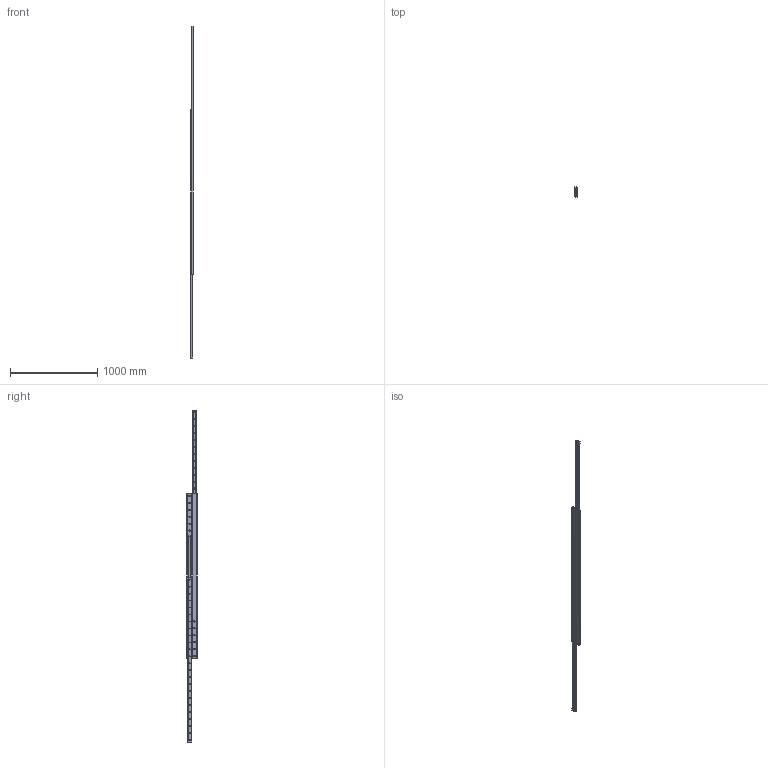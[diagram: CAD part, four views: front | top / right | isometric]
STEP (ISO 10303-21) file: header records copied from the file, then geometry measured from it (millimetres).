
FILE_DESCRIPTION(('STEP AP214'),'1');
FILE_NAME('rail_dss43-1890_01.stp','2017-04-17T03:58:55',('TraceParts'),('TraceParts S.A.'),'Spatial InterOp 3D',' ',' ');
FILE_SCHEMA(('automotive_design'));
Length unit declared in the file: millimetre
Products named in the file (3): rail_dss43-1890_01_1; rail_dss43-1890_01_2; rail_dss43-1890_01_3
Bounding box: 28 x 120 x 3816 mm (x, y, z)
Volume: 3348916.8 mm3; surface area: 1346945 mm2
Topology: 3 solids, 3 shells, 406 faces, 1074 edges, 684 vertices
Faces by surface type: cylinder 172, plane 138, cone 96
Entity records: 12911 total; most frequent: DIRECTION 2348, CARTESIAN_POINT 2167, ORIENTED_EDGE 2148, EDGE_CURVE 1074, AXIS2_PLACEMENT_3D 865, VERTEX_POINT 684, LINE 618, VECTOR 618
